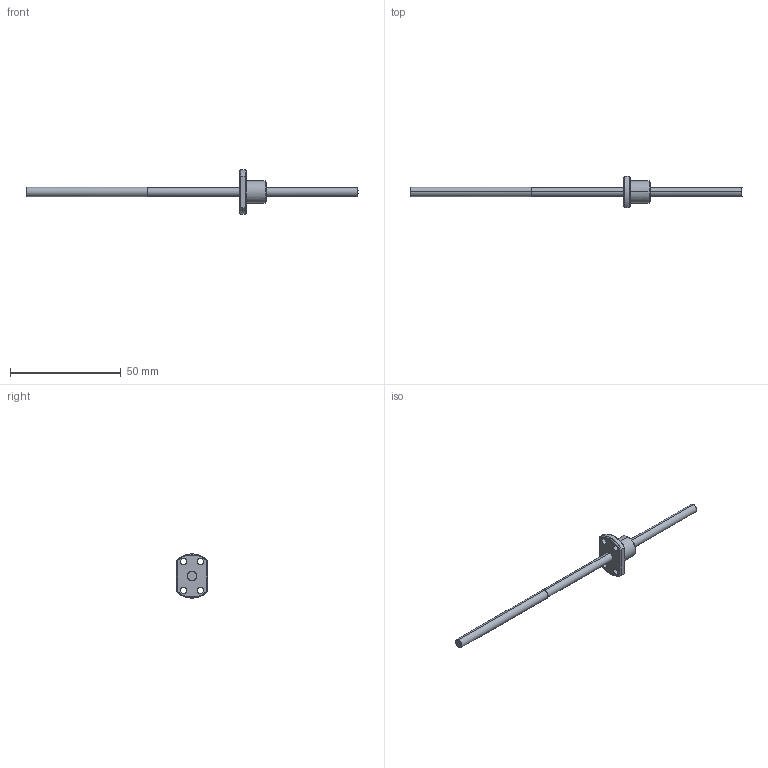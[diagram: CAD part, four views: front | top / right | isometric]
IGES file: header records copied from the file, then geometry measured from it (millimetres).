
Global section: file name: No Iges File Name specified; native system: AutoDesk Inventor R11.0; preprocessor: AutoDesk Inventor Iges Exporter R11.0; author: No Author specified; organization: No Organization specified; date: 20160202.105429; units: millimetre
Bounding box: 150 x 14 x 20 mm (x, y, z)
Surface area: 3055.9 mm2 (no closed solid volume)
Topology: 0 solids, 0 shells, 37 faces, 232 edges, 232 vertices
Faces by surface type: bspline 37
